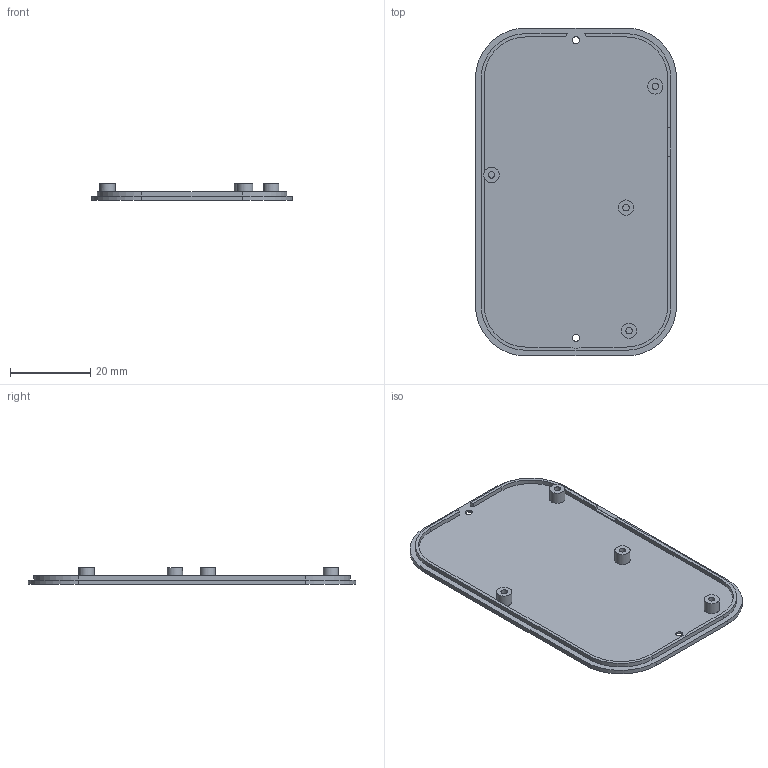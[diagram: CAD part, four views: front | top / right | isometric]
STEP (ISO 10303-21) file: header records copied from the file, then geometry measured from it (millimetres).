
FILE_DESCRIPTION(('FreeCAD Model'),'2;1');
FILE_NAME('Open CASCADE Shape Model','2026-09-22T01:23:49',('FreeCAD'),( 'FreeCAD'),'Open CASCADE STEP processor 7.8','FreeCAD','Unknown');
FILE_SCHEMA(('AUTOMOTIVE_DESIGN { 1 0 10303 214 1 1 1 1 }'));
Length unit declared in the file: millimetre
Products named in the file (1): Open CASCADE STEP translator 7.8 1
Bounding box: 50 x 81.5 x 4.2 mm (x, y, z)
Volume: 4630.8 mm3; surface area: 8848.9 mm2
Topology: 1 solids, 1 shells, 60 faces, 146 edges, 98 vertices
Faces by surface type: plane 33, cylinder 27
Full cylindrical faces by diameter (mm): 1.6 x4, 1.8 x2, 3.3 x2, 3.8 x4
Entity records: 1802 total; most frequent: DIRECTION 326, CARTESIAN_POINT 305, ORIENTED_EDGE 292, EDGE_CURVE 146, AXIS2_PLACEMENT_3D 119, VERTEX_POINT 98, LINE 88, VECTOR 88
